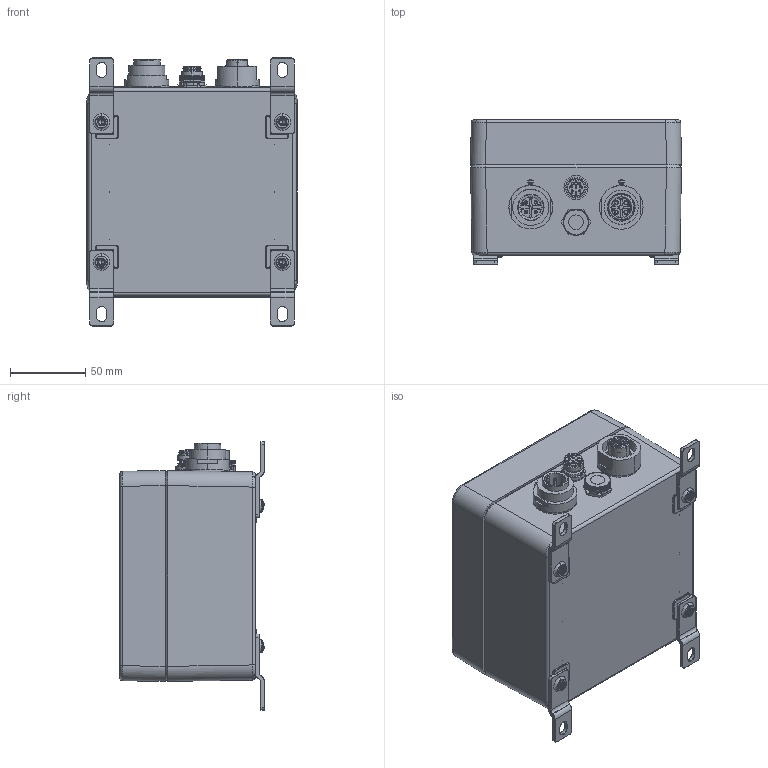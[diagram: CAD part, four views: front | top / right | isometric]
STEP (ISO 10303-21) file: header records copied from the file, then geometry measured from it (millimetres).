
FILE_DESCRIPTION (( 'STEP AP214' ), '1' );
FILE_NAME ('UPSI-IP-1 Series.STEP', '2023-01-26T13:37:39', ( '' ), ( '' ), 'SwSTEP 2.0', 'SolidWorks 2022', '' );
FILE_SCHEMA (( 'AUTOMOTIVE_DESIGN' ));
Length unit declared in the file: millimetre
Products named in the file (1): UPSI-IP-1 Series
Bounding box: 140 x 96.2 x 178 mm (x, y, z)
Volume: 1750390.9 mm3; surface area: 196735.4 mm2
Topology: 20 solids, 21 shells, 2795 faces, 6826 edges, 4157 vertices
Faces by surface type: plane 972, cylinder 901, bspline 330, torus 319, cone 236, sphere 37
Entity records: 135815 total; most frequent: CARTESIAN_POINT 40661, DIRECTION 13572, ORIENTED_EDGE 13480, EDGE_CURVE 6740, AXIS2_PLACEMENT_3D 5383, VERTEX_POINT 4147, EDGE_LOOP 3015, CIRCLE 2917
